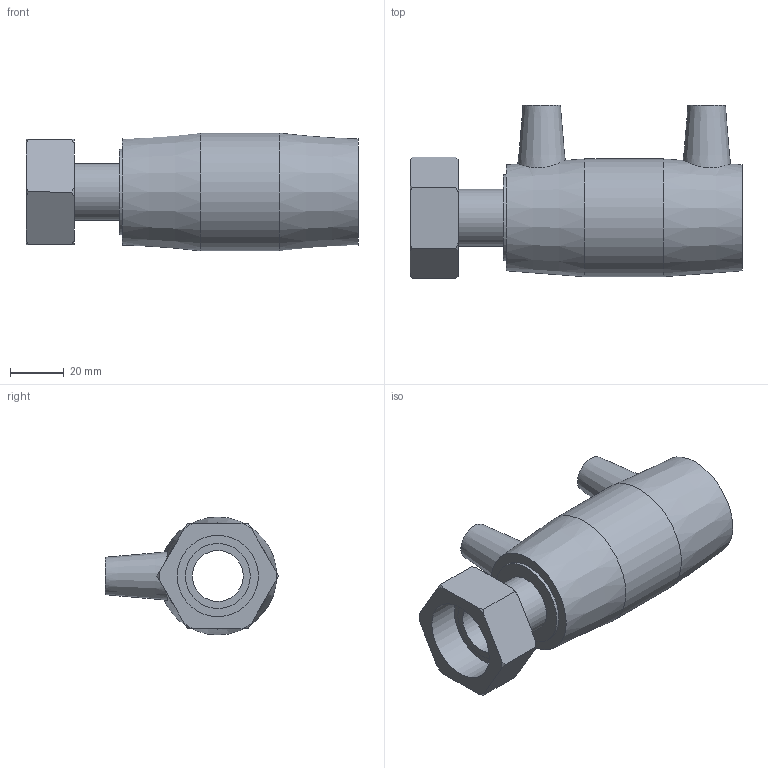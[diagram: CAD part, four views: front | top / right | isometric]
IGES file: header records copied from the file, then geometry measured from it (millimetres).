
Global section: file name: 494104032010.ipt; native system: Autodesk Inventor 2015; preprocessor: unknown; author: KIM; date: 20171106.094128; units: millimetre
Bounding box: 124 x 64.72 x 44 mm (x, y, z)
Volume: 100228.5 mm3; surface area: 33618.8 mm2
Topology: 1 solids, 2 shells, 54 faces, 128 edges, 88 vertices
Faces by surface type: plane 22, cone 16, revolution 9, cylinder 7
Full cylindrical faces by diameter (mm): 4 x2, 21.204 x1, 24.233 x1, 32 x2, 44 x1
